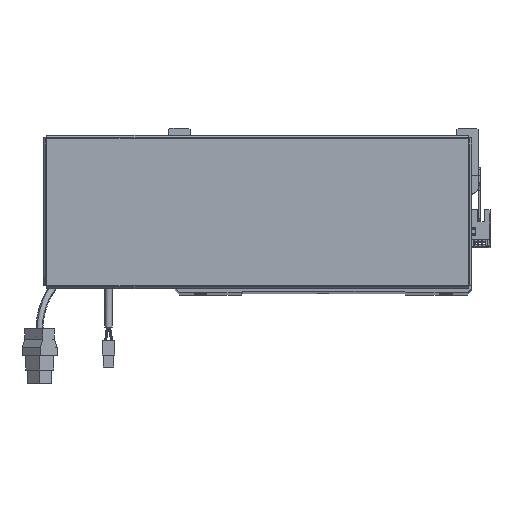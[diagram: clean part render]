
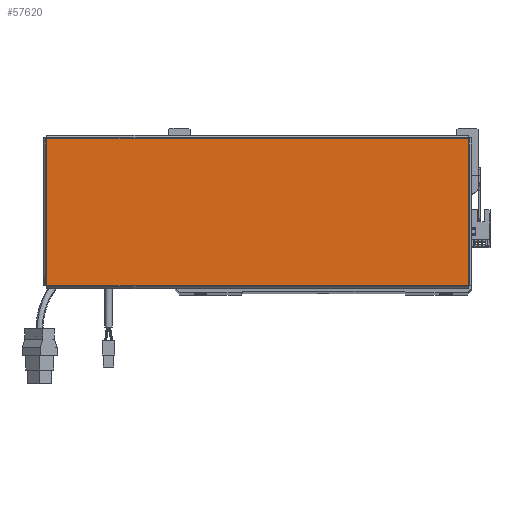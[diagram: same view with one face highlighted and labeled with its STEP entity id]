
A CAD part, top view. The second image highlights one B-rep face of the part: STEP entity #57620.
In plain terms, the highlighted planar face has unit normal (0, 0, 1).
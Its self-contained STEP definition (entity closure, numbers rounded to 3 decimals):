
#102 = ORIENTED_EDGE ( 'NONE', *, *, #36912, .T. ) ;
#1060 = DIRECTION ( 'NONE',  ( 1., 0., 0. ) ) ;
#2435 = DIRECTION ( 'NONE',  ( -1., 0., 0. ) ) ;
#6506 = LINE ( 'NONE', #23031, #38783 ) ;
#14241 = EDGE_CURVE ( 'NONE', #49492, #33470, #6506, .T. ) ;
#15348 = CARTESIAN_POINT ( 'NONE',  ( 156.513, -54.763, 0. ) ) ;
#17051 = CARTESIAN_POINT ( 'NONE',  ( -156.513, -54.763, 0. ) ) ;
#18343 = CARTESIAN_POINT ( 'NONE',  ( -156.543, -54.763, 0. ) ) ;
#18529 = LINE ( 'NONE', #29831, #40079 ) ;
#19986 = LINE ( 'NONE', #18343, #48133 ) ;
#23031 = CARTESIAN_POINT ( 'NONE',  ( 156.543, 54.763, 0. ) ) ;
#23252 = VERTEX_POINT ( 'NONE', #15348 ) ;
#24711 = AXIS2_PLACEMENT_3D ( 'NONE', #32782, #58963, #1060 ) ;
#26752 = CARTESIAN_POINT ( 'NONE',  ( 156.513, 54.763, 0. ) ) ;
#28927 = VERTEX_POINT ( 'NONE', #17051 ) ;
#29831 = CARTESIAN_POINT ( 'NONE',  ( -156.513, 54.793, 0. ) ) ;
#32782 = CARTESIAN_POINT ( 'NONE',  ( 0., 0., 0. ) ) ;
#33470 = VERTEX_POINT ( 'NONE', #50796 ) ;
#34343 = CARTESIAN_POINT ( 'NONE',  ( 156.513, -54.793, 0. ) ) ;
#36912 = EDGE_CURVE ( 'NONE', #33470, #28927, #18529, .T. ) ;
#38783 = VECTOR ( 'NONE', #2435, 1000. ) ;
#39588 = VECTOR ( 'NONE', #44533, 1000. ) ;
#40079 = VECTOR ( 'NONE', #45840, 1000. ) ;
#42463 = ORIENTED_EDGE ( 'NONE', *, *, #14241, .T. ) ;
#43569 = ORIENTED_EDGE ( 'NONE', *, *, #63337, .T. ) ;
#44533 = DIRECTION ( 'NONE',  ( 0., 1., 0. ) ) ;
#45840 = DIRECTION ( 'NONE',  ( 0., -1., 0. ) ) ;
#47639 = PLANE ( 'NONE',  #24711 ) ;
#48133 = VECTOR ( 'NONE', #61676, 1000. ) ;
#49492 = VERTEX_POINT ( 'NONE', #26752 ) ;
#50796 = CARTESIAN_POINT ( 'NONE',  ( -156.513, 54.763, 0. ) ) ;
#52118 = EDGE_LOOP ( 'NONE', ( #43569, #61877, #42463, #102 ) ) ;
#53629 = LINE ( 'NONE', #34343, #39588 ) ;
#57620 = ADVANCED_FACE ( 'NONE', ( #61147 ), #47639, .T. ) ;
#58963 = DIRECTION ( 'NONE',  ( 0., 0., 1. ) ) ;
#61147 = FACE_OUTER_BOUND ( 'NONE', #52118, .T. ) ;
#61676 = DIRECTION ( 'NONE',  ( 1., 0., 0. ) ) ;
#61877 = ORIENTED_EDGE ( 'NONE', *, *, #65598, .T. ) ;
#63337 = EDGE_CURVE ( 'NONE', #28927, #23252, #19986, .T. ) ;
#65598 = EDGE_CURVE ( 'NONE', #23252, #49492, #53629, .T. ) ;
